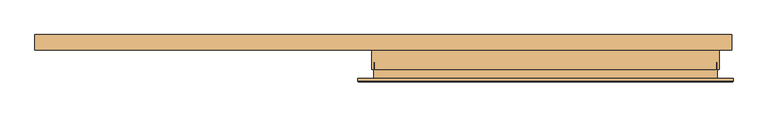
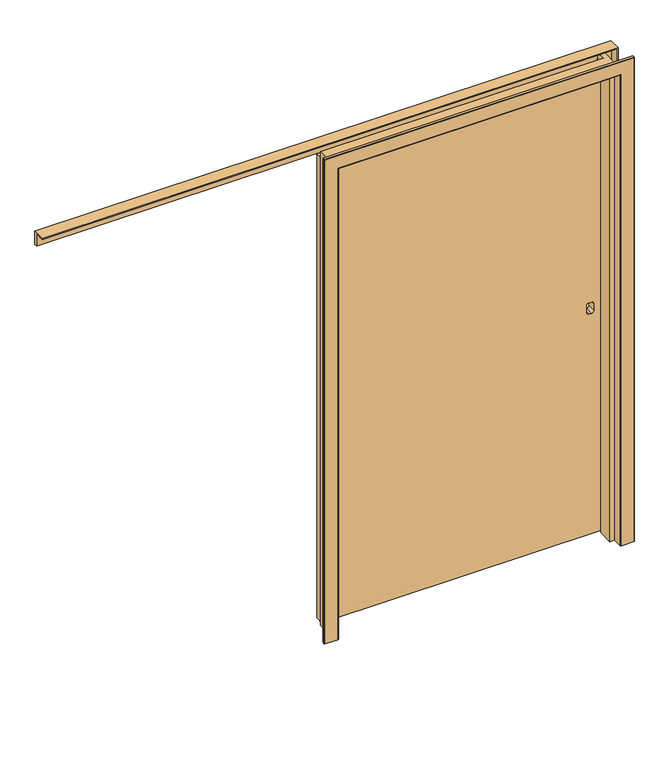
"""IFC4 building model written with IfcOpenShell, lengths in millimetres: door geometry, M_Porta-De_Correr-Pormade-Porta_Lisa : .porta correr isopainel."""

from ifc_helpers import new_model, si_unit, point, frame, frame_2d, origin, place, context, project, spatial, polyline, circle_curve, ellipse_curve, trimmed, segment, composite_curve, outline, extrude, faceted_brep, source, transform, mapped, element, save
from ifc_brep_helpers import plane_surface, cylinder_surface, advanced_brep


def door_5e27b62a(model_context):
    return source(origin(), model_context, "Body", "SolidModel", [
        extrude(outline(polyline([(2105.0, 593.5), (2105.0, -606.5), (5.0, -606.5), (5.0, 593.5), (2105.0, 593.5)]), holes=[composite_curve([segment(trimmed(circle_curve(frame_2d((1039.9860517, 547.1458795)), 10.0), [point((1049.9860517, 547.1458795))], [point((1039.9860517, 557.1458795))], True, "CARTESIAN"), True, "CONTINUOUS"), segment(polyline([(1039.9860517, 557.1458795), (1009.9860517, 557.1458795)]), True, "CONTINUOUS"), segment(trimmed(circle_curve(frame_2d((1009.9860517, 547.1458795)), 10.0), [point((1009.9860517, 557.1458795))], [point((999.9860517, 547.1458795))], True, "CARTESIAN"), True, "CONTINUOUS"), segment(polyline([(999.9860517, 547.1458795), (999.9860517, 537.1458795)]), True, "CONTINUOUS"), segment(trimmed(circle_curve(frame_2d((1009.9860517, 537.1458795)), 10.0), [point((999.9860517, 537.1458795))], [point((1009.9860517, 527.1458795))], True, "CARTESIAN"), True, "CONTINUOUS"), segment(polyline([(1009.9860517, 527.1458795), (1039.9860517, 527.1458795)]), True, "CONTINUOUS"), segment(trimmed(circle_curve(frame_2d((1039.9860517, 537.1458795)), 10.0), [point((1039.9860517, 527.1458795))], [point((1049.9860517, 537.1458795))], True, "CARTESIAN"), True, "CONTINUOUS"), segment(polyline([(1049.9860517, 537.1458795), (1049.9860517, 547.1458795)]), True, "CONTINUOUS")], self_intersect=False)]), frame((0.0, 57.0, 0.0), z_axis=(0.0, 1.0, 0.0), x_axis=(0.0, 0.0, 1.0)), (0.0, 0.0, 1.0), 35.0),
        advanced_brep(
        [(598.5, 102.5, 0.0), (600.5, 104.5, 0.0), (658.5, 104.5, 0.0), (658.5, 50.0, 0.0), (655.0, 50.0, 0.0), (655.0, 92.0, 0.0), (598.5, 92.0, 0.0), (598.5, 102.5, 2106.5), (600.5, 104.5, 2108.5), (-1806.5, 104.5, 2108.5), (-1806.5, 104.5, 2166.5), (658.5, 104.5, 2166.5), (658.5, 50.0, 2166.5), (-1806.5, 50.0, 2166.5), (-1806.5, 50.0, 2163.0), (655.0, 50.0, 2163.0), (655.0, 92.0, 2163.0), (-1806.5, 92.0, 2163.0), (-1806.5, 92.0, 2106.5), (598.5, 92.0, 2106.5), (-1806.5, 102.5, 2106.5)],
        [
            (0, 1, circle_curve(frame((600.5, 102.5, 0.0), z_axis=(0.0, 0.0, -1.0), x_axis=(-1.0, 0.0, 0.0)), 2.0)),
            (1, 2),
            (2, 3),
            (3, 4),
            (4, 5),
            (5, 6),
            (6, 0),
            (0, 7),
            (7, 8, ellipse_curve(frame((600.5, 102.5, 2108.5), z_axis=(0.7071067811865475, 0.0, -0.7071067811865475), x_axis=(-0.7071067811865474, 0.0, -0.7071067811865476)), 2.8284271, 2.0)),
            (8, 1),
            (8, 9),
            (9, 10),
            (10, 11),
            (11, 2),
            (11, 12),
            (12, 3),
            (12, 13),
            (13, 14),
            (14, 15),
            (15, 4),
            (15, 16),
            (16, 5),
            (16, 17),
            (17, 18),
            (18, 19),
            (19, 6),
            (19, 7),
            (20, 18),
            (17, 14),
            (13, 10),
            (9, 20, circle_curve(frame((-1806.5, 102.5, 2108.5), z_axis=(-1.0, 0.0, 0.0), x_axis=(0.0, 0.0, -1.0)), 2.0)),
            (7, 20),
        ],
        [
            plane_surface(frame((658.5, 50.0, 0.0), z_axis=(0.0, 0.0, -1.0), x_axis=(0.0, -1.0, 0.0))),
            cylinder_surface(frame((600.5, 102.5, 0.0), z_axis=(0.0, 0.0, -1.0), x_axis=(-1.0, 0.0, 0.0)), 2.0),
            plane_surface(frame((600.5, 104.5, 0.0), z_axis=(0.0, 1.0, 0.0), x_axis=(0.0, 0.0, 1.0))),
            plane_surface(frame((658.5, 104.5, 0.0), z_axis=(1.0, 0.0, 0.0), x_axis=(0.0, 0.0, 1.0))),
            plane_surface(frame((658.5, 50.0, 0.0), z_axis=(0.0, -1.0, 0.0), x_axis=(0.0, 0.0, 1.0))),
            plane_surface(frame((655.0, 50.0, 0.0), z_axis=(-1.0, 0.0, 0.0), x_axis=(0.0, 0.0, 1.0))),
            plane_surface(frame((655.0, 92.0, 0.0), z_axis=(0.0, -1.0, 0.0), x_axis=(0.0, 0.0, 1.0))),
            plane_surface(frame((598.5, 92.0, 0.0), z_axis=(-1.0, 0.0, 0.0), x_axis=(0.0, 0.0, 1.0))),
            plane_surface(frame((-1806.5, 50.0, 2166.5), z_axis=(-1.0, 0.0, 0.0), x_axis=(0.0, -1.0, 0.0))),
            cylinder_surface(frame((658.5, 102.5, 2108.5), z_axis=(1.0, 0.0, 0.0), x_axis=(0.0, 0.0, -1.0)), 2.0),
            plane_surface(frame((658.5, 104.5, 2166.5), z_axis=(0.0, 0.0, 1.0), x_axis=(-1.0, 0.0, 0.0))),
            plane_surface(frame((655.0, 50.0, 2163.0), z_axis=(0.0, 0.0, -1.0), x_axis=(-1.0, 0.0, 0.0))),
            plane_surface(frame((598.5, 92.0, 2106.5), z_axis=(0.0, 0.0, -1.0), x_axis=(-1.0, 0.0, 0.0))),
        ],
        [
            (0, [[1, 2, 3, 4, 5, 6, 7]]),
            (1, [[-1, 8, 9, 10]]),
            (2, [[-2, -10, 11, 12, 13, 14]]),
            (3, [[-3, -14, 15, 16]]),
            (4, [[-4, -16, 17, 18, 19, 20]]),
            (5, [[-5, -20, 21, 22]]),
            (6, [[-6, -22, 23, 24, 25, 26]]),
            (7, [[-7, -26, 27, -8]]),
            (8, [[28, -24, 29, -18, 30, -12, 31]]),
            (9, [[-9, 32, -31, -11]]),
            (10, [[-15, -13, -30, -17]]),
            (11, [[-21, -19, -29, -23]]),
            (12, [[-27, -25, -28, -32]]),
        ],
    ),
        advanced_brep(
        [(663.75, -60.5, 0.0), (661.75, -62.5, 0.0), (605.75, -62.5, 0.0), (603.75, -60.5, 0.0), (603.75, -5.0, 0.0), (607.25, -5.0, 0.0), (607.25, -50.0, 0.0), (663.75, -50.0, 0.0), (663.75, -60.5, 2190.0), (661.75, -62.5, 2188.0), (-661.75, -62.5, 2188.0), (-661.75, -62.5, 0.0), (-605.75, -62.5, 0.0), (-605.75, -62.5, 2132.0), (605.75, -62.5, 2132.0), (603.75, -60.5, 2130.0), (603.75, -5.0, 2130.0), (-603.75, -5.0, 2130.0), (-603.75, -5.0, 0.0), (-607.25, -5.0, 0.0), (-607.25, -5.0, 2133.5), (607.25, -5.0, 2133.5), (607.25, -50.0, 2133.5), (-607.25, -50.0, 2133.5), (-607.25, -50.0, 0.0), (-663.75, -50.0, 0.0), (-663.75, -50.0, 2190.0), (663.75, -50.0, 2190.0), (-663.75, -60.5, 2190.0), (-603.75, -60.5, 2130.0), (-663.75, -60.5, 0.0), (-603.75, -60.5, 0.0)],
        [
            (0, 1, circle_curve(frame((661.75, -60.5, 0.0), z_axis=(0.0, 0.0, -1.0), x_axis=(0.0, -1.0, 0.0)), 2.0)),
            (1, 2),
            (2, 3, circle_curve(frame((605.75, -60.5, 0.0), z_axis=(0.0, 0.0, -1.0), x_axis=(0.0, -1.0, 0.0)), 2.0)),
            (3, 4),
            (4, 5),
            (5, 6),
            (6, 7),
            (7, 0),
            (0, 8),
            (8, 9, ellipse_curve(frame((661.75, -60.5, 2188.0), z_axis=(0.7071067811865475, 0.0, -0.7071067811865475), x_axis=(-0.7071067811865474, 0.0, -0.7071067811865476)), 2.8284271, 2.0)),
            (9, 1),
            (9, 10),
            (10, 11),
            (11, 12),
            (12, 13),
            (13, 14),
            (14, 2),
            (14, 15, ellipse_curve(frame((605.75, -60.5, 2132.0), z_axis=(0.7071067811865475, 0.0, -0.7071067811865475), x_axis=(-0.7071067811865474, 0.0, -0.7071067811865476)), 2.8284271, 2.0)),
            (15, 3),
            (15, 16),
            (16, 4),
            (16, 17),
            (17, 18),
            (18, 19),
            (19, 20),
            (20, 21),
            (21, 5),
            (21, 22),
            (22, 6),
            (22, 23),
            (23, 24),
            (24, 25),
            (25, 26),
            (26, 27),
            (27, 7),
            (27, 8),
            (8, 28),
            (28, 10, ellipse_curve(frame((-661.75, -60.5, 2188.0), z_axis=(0.7071067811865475, 0.0, 0.7071067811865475), x_axis=(0.7071067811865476, 0.0, -0.7071067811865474)), 2.8284271, 2.0)),
            (13, 29, ellipse_curve(frame((-605.75, -60.5, 2132.0), z_axis=(0.7071067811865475, 0.0, 0.7071067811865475), x_axis=(0.7071067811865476, 0.0, -0.7071067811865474)), 2.8284271, 2.0)),
            (29, 15),
            (29, 17),
            (20, 23),
            (26, 28),
            (30, 25),
            (24, 19),
            (18, 31),
            (31, 12, circle_curve(frame((-605.75, -60.5, 0.0), z_axis=(0.0, 0.0, -1.0), x_axis=(0.0, -1.0, 0.0)), 2.0)),
            (11, 30, circle_curve(frame((-661.75, -60.5, 0.0), z_axis=(0.0, 0.0, -1.0), x_axis=(0.0, -1.0, 0.0)), 2.0)),
            (28, 30),
            (31, 29),
        ],
        [
            plane_surface(frame((603.75, -50.0, 0.0), z_axis=(0.0, 0.0, -1.0), x_axis=(0.0, -1.0, 0.0))),
            cylinder_surface(frame((661.75, -60.5, 0.0), z_axis=(0.0, 0.0, -1.0), x_axis=(0.0, -1.0, 0.0)), 2.0),
            plane_surface(frame((661.75, -62.5, 0.0), z_axis=(0.0, -1.0, 0.0), x_axis=(0.0, 0.0, 1.0))),
            cylinder_surface(frame((605.75, -60.5, 0.0), z_axis=(0.0, 0.0, -1.0), x_axis=(0.0, -1.0, 0.0)), 2.0),
            plane_surface(frame((603.75, -60.5, 0.0), z_axis=(-1.0, 0.0, 0.0), x_axis=(0.0, 0.0, 1.0))),
            plane_surface(frame((603.75, -5.0, 0.0), z_axis=(0.0, 1.0, 0.0), x_axis=(0.0, 0.0, 1.0))),
            plane_surface(frame((607.25, -5.0, 0.0), z_axis=(1.0, 0.0, 0.0), x_axis=(0.0, 0.0, 1.0))),
            plane_surface(frame((607.25, -50.0, 0.0), z_axis=(0.0, 1.0, 0.0), x_axis=(0.0, 0.0, 1.0))),
            plane_surface(frame((663.75, -50.0, 0.0), z_axis=(1.0, 0.0, 0.0), x_axis=(0.0, 0.0, 1.0))),
            cylinder_surface(frame((603.75, -60.5, 2188.0), z_axis=(1.0, 0.0, 0.0), x_axis=(0.0, -1.0, 0.0)), 2.0),
            cylinder_surface(frame((603.75, -60.5, 2132.0), z_axis=(1.0, 0.0, 0.0), x_axis=(0.0, -1.0, 0.0)), 2.0),
            plane_surface(frame((603.75, -60.5, 2130.0), z_axis=(0.0, 0.0, -1.0), x_axis=(-1.0, 0.0, 0.0))),
            plane_surface(frame((607.25, -5.0, 2133.5), z_axis=(0.0, 0.0, 1.0), x_axis=(-1.0, 0.0, 0.0))),
            plane_surface(frame((663.75, -50.0, 2190.0), z_axis=(0.0, 0.0, 1.0), x_axis=(-1.0, 0.0, 0.0))),
            plane_surface(frame((-603.75, -50.0, 0.0), z_axis=(0.0, 0.0, -1.0), x_axis=(0.0, -1.0, 0.0))),
            cylinder_surface(frame((-661.75, -60.5, 2130.0), z_axis=(0.0, 0.0, 1.0), x_axis=(0.0, -1.0, 0.0)), 2.0),
            cylinder_surface(frame((-605.75, -60.5, 2130.0), z_axis=(0.0, 0.0, 1.0), x_axis=(0.0, -1.0, 0.0)), 2.0),
            plane_surface(frame((-603.75, -60.5, 2130.0), z_axis=(1.0, 0.0, 0.0), x_axis=(0.0, 0.0, -1.0))),
            plane_surface(frame((-607.25, -5.0, 2133.5), z_axis=(-1.0, 0.0, 0.0), x_axis=(0.0, 0.0, -1.0))),
            plane_surface(frame((-663.75, -50.0, 2190.0), z_axis=(-1.0, 0.0, 0.0), x_axis=(0.0, 0.0, -1.0))),
        ],
        [
            (0, [[1, 2, 3, 4, 5, 6, 7, 8]]),
            (1, [[-1, 9, 10, 11]]),
            (2, [[-2, -11, 12, 13, 14, 15, 16, 17]]),
            (3, [[-3, -17, 18, 19]]),
            (4, [[-4, -19, 20, 21]]),
            (5, [[-5, -21, 22, 23, 24, 25, 26, 27]]),
            (6, [[-6, -27, 28, 29]]),
            (7, [[-7, -29, 30, 31, 32, 33, 34, 35]]),
            (8, [[-8, -35, 36, -9]]),
            (9, [[-10, 37, 38, -12]]),
            (10, [[-18, -16, 39, 40]]),
            (11, [[-20, -40, 41, -22]]),
            (12, [[-28, -26, 42, -30]]),
            (13, [[-36, -34, 43, -37]]),
            (14, [[44, -32, 45, -24, 46, 47, -14, 48]]),
            (15, [[-38, 49, -48, -13]]),
            (16, [[-39, -15, -47, 50]]),
            (17, [[-41, -50, -46, -23]]),
            (18, [[-42, -25, -45, -31]]),
            (19, [[-43, -33, -44, -49]]),
        ],
    ),
        faceted_brep([(-615.5, 50.0, 2142.0), (-615.5, -18.0, 2142.0), (-607.5, -18.0, 2142.0), (-607.5, 8.0, 2142.0), (-603.5, 8.0, 2142.0), (-603.5, -18.0, 2142.0), (603.75, -18.0, 2142.0), (603.75, 8.0, 2142.0), (607.5, 8.0, 2142.0), (607.5, -18.0, 2142.0), (615.5, -18.0, 2142.0), (615.5, 92.0, 2142.0), (593.5, 92.0, 2142.0), (593.5, 50.0, 2142.0), (-583.5, -18.0, 0.0), (-603.5, -18.0, 0.0), (-603.5, 8.0, 0.0), (-607.5, 8.0, 0.0), (-607.5, -18.0, 0.0), (-615.5, -18.0, 0.0), (-615.5, 50.0, 0.0), (-583.5, 50.0, 0.0), (583.5, -18.0, 0.0), (583.5, 50.0, 0.0), (593.5, 50.0, 0.0), (593.5, 92.0, 0.0), (615.5, 92.0, 0.0), (615.5, -18.0, 0.0), (607.5, -18.0, 0.0), (607.5, 8.0, 0.0), (603.75, 8.0, 0.0), (603.75, -18.0, 0.0), (-583.5, 50.0, 2110.0), (-583.5, -18.0, 2110.0), (-583.5, -18.0, 2134.0), (-583.5, -18.0, 2130.0), (-583.5, 7.0, 2130.0), (-583.5, 7.0, 2134.0), (583.5, 50.0, 2110.0), (-603.5, 8.0, 2110.0), (583.5, -18.0, 2110.0), (583.5, -18.0, 2134.0), (583.5, -18.0, 2130.0), (603.75, 8.0, 2110.0), (583.5, 7.0, 2134.0), (583.5, 7.0, 2130.0)], [[[0, 1, 2, 3, 4, 5, 6, 7, 8, 9, 10, 11, 12, 13]], [[14, 15, 16, 17, 18, 19, 20, 21]], [[22, 23, 24, 25, 26, 27, 28, 29, 30, 31]], [[14, 21, 32, 33]], [[34, 35, 36, 37]], [[21, 20, 0, 13, 24, 23, 38, 32]], [[1, 0, 20, 19]], [[2, 1, 19, 18]], [[3, 2, 18, 17]], [[4, 3, 17, 16, 39]], [[15, 5, 4, 39, 16]], [[6, 5, 15, 14, 33, 40, 22, 31], [34, 41, 42, 35]], [[7, 6, 31, 30, 43]], [[8, 7, 43, 30, 29]], [[9, 8, 29, 28]], [[10, 9, 28, 27]], [[10, 27, 26, 11]], [[23, 22, 40, 38]], [[42, 41, 44, 45]], [[12, 11, 26, 25]], [[24, 13, 12, 25]], [[35, 42, 45, 36]], [[36, 45, 44, 37]], [[41, 34, 37, 44]], [[40, 33, 32, 38]]]),
    ])


if __name__ == "__main__":
    model = new_model("IFC4")
    model_context = context("Model", 3, world=origin())
    ifc_project = project(units=[si_unit("LENGTHUNIT", "METRE", prefix="MILLI")], contexts=[model_context])
    site = spatial("IfcSite", under=ifc_project)
    building = spatial("IfcBuilding", under=site)
    placement = place(None, origin())
    door_shape = door_5e27b62a(model_context)
    element("IfcDoor", 1, ObjectType="M_Porta-De_Correr-Pormade-Porta_Lisa : .porta correr isopainel", at=placement, inside=building, context=model_context, shape_type="MappedRepresentation", body=[
        mapped(door_shape, transform((0.0, 0.0, 0.0), x_axis=(1.0, 0.0, 0.0), y_axis=(0.0, 1.0, 0.0), z_axis=(0.0, 0.0, 1.0))),
    ])
    save(model, "model.ifc")
